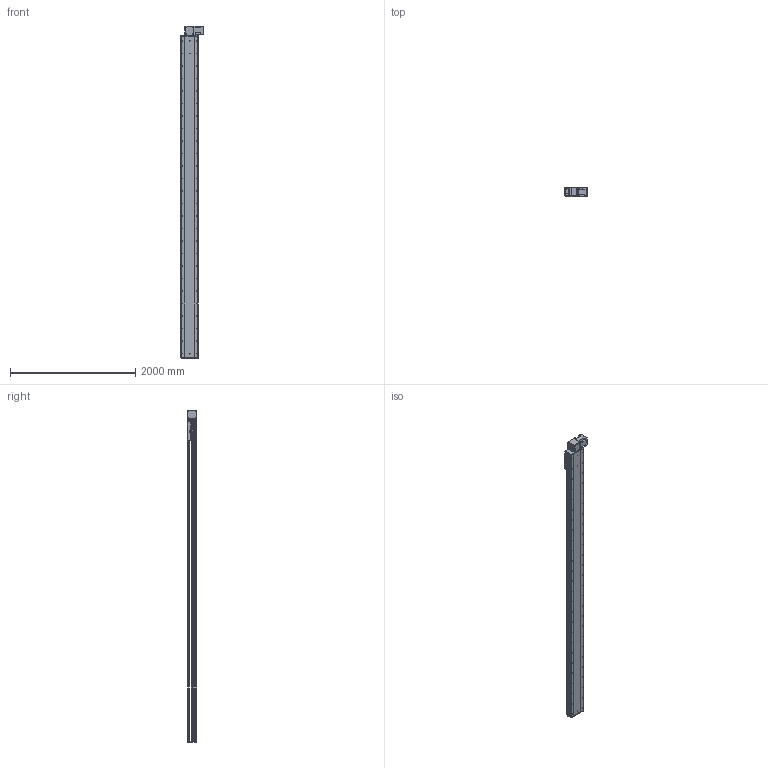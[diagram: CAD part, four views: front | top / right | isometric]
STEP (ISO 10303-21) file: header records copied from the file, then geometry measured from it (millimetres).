
FILE_DESCRIPTION (( 'STEP AP214' ), '1' );
FILE_NAME ('RTB28S-XX-4700-BL-M100-XX-C4.STEP', '2025-12-22T02:47:55', ( '' ), ( '' ), 'SwSTEP 2.0', 'SolidWorks 2018', '' );
FILE_SCHEMA (( 'AUTOMOTIVE_DESIGN' ));
Length unit declared in the file: millimetre
Products named in the file (4): RTB28S-GY-011^RTB28S-XX-XX-BL-M100-XX-C4; RTB28S-XX-4700-BL-M100-XX-C4; RTB28S-GY-004^RTB28S-XX-XX-BL-M100-XX-C4; RTB28S-GY-008^RTB28S-XX-XX-BL-M100-XX-C4
Assembly tree (3 placements, depth 2):
  RTB28S-XX-4700-BL-M100-XX-C4
    RTB28S-GY-011^RTB28S-XX-XX-BL-M100-XX-C4
    RTB28S-GY-004^RTB28S-XX-XX-BL-M100-XX-C4
    RTB28S-GY-008^RTB28S-XX-XX-BL-M100-XX-C4
Bounding box: 380.7 x 145 x 5307 mm (x, y, z)
Volume: 87888482.2 mm3; surface area: 8118022.4 mm2
Topology: 3 solids, 4 shells, 968 faces, 2628 edges, 1688 vertices
Faces by surface type: cylinder 503, plane 381, cone 80, torus 4
Entity records: 38261 total; most frequent: CARTESIAN_POINT 7702, DIRECTION 5610, ORIENTED_EDGE 5192, EDGE_CURVE 2596, AXIS2_PLACEMENT_3D 2100, VERTEX_POINT 1688, VECTOR 1410, LINE 1410
